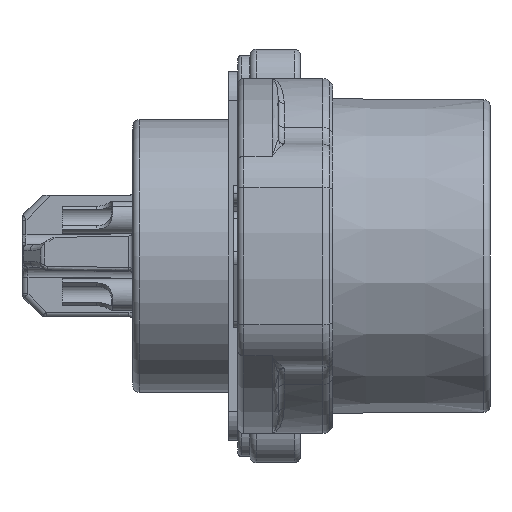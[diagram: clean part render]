
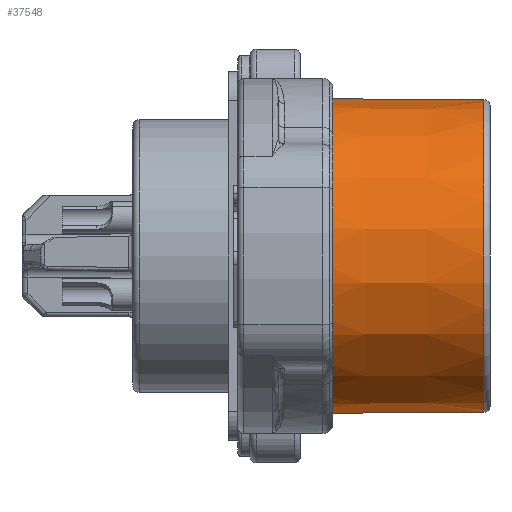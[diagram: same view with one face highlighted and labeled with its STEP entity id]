
A CAD part, front view. The second image highlights one B-rep face of the part: STEP entity #37548.
In plain terms, the highlighted conical face has half-angle 0.3 degrees and reference radius 7.75 mm.
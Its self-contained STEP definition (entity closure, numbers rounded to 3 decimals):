
#134 = VECTOR ( 'NONE', #43186, 1000. ) ;
#652 = AXIS2_PLACEMENT_3D ( 'NONE', #3562, #9943, #14052 ) ;
#1794 = CARTESIAN_POINT ( 'NONE',  ( 0., 0., 7.75 ) ) ;
#3562 = CARTESIAN_POINT ( 'NONE',  ( -0.298, 0., 0. ) ) ;
#4915 = CARTESIAN_POINT ( 'NONE',  ( -9.102, 0., 0. ) ) ;
#5173 = EDGE_CURVE ( 'NONE', #29285, #34971, #31879, .T. ) ;
#7256 = CARTESIAN_POINT ( 'NONE',  ( -9.102, 0., -7.798 ) ) ;
#9162 = CARTESIAN_POINT ( 'NONE',  ( 0., 0., 0. ) ) ;
#9704 = CARTESIAN_POINT ( 'NONE',  ( 0., 0., -7.75 ) ) ;
#9943 = DIRECTION ( 'NONE',  ( -1., 0., 0. ) ) ;
#11059 = VECTOR ( 'NONE', #16532, 1000. ) ;
#12806 = EDGE_CURVE ( 'NONE', #26721, #29285, #18771, .T. ) ;
#13366 = LINE ( 'NONE', #9704, #11059 ) ;
#14052 = DIRECTION ( 'NONE',  ( 0., 0., -1. ) ) ;
#14825 = AXIS2_PLACEMENT_3D ( 'NONE', #4915, #43975, #27168 ) ;
#16076 = VERTEX_POINT ( 'NONE', #7256 ) ;
#16532 = DIRECTION ( 'NONE',  ( -1., 0., -0.005 ) ) ;
#17782 = EDGE_CURVE ( 'NONE', #26721, #16076, #13366, .T. ) ;
#18771 = CIRCLE ( 'NONE', #652, 7.752 ) ;
#22010 = ORIENTED_EDGE ( 'NONE', *, *, #31974, .T. ) ;
#23515 = FACE_OUTER_BOUND ( 'NONE', #39202, .T. ) ;
#25306 = CONICAL_SURFACE ( 'NONE', #36896, 7.75, 0.005 ) ;
#26475 = DIRECTION ( 'NONE',  ( -1., 0., 0. ) ) ;
#26721 = VERTEX_POINT ( 'NONE', #32986 ) ;
#27168 = DIRECTION ( 'NONE',  ( 0., 0., 1. ) ) ;
#29285 = VERTEX_POINT ( 'NONE', #34326 ) ;
#29708 = CARTESIAN_POINT ( 'NONE',  ( -9.102, 0., 7.798 ) ) ;
#30805 = CIRCLE ( 'NONE', #14825, 7.798 ) ;
#31879 = LINE ( 'NONE', #1794, #134 ) ;
#31974 = EDGE_CURVE ( 'NONE', #34971, #16076, #30805, .T. ) ;
#32986 = CARTESIAN_POINT ( 'NONE',  ( -0.298, 0., -7.752 ) ) ;
#34326 = CARTESIAN_POINT ( 'NONE',  ( -0.298, 0., 7.752 ) ) ;
#34971 = VERTEX_POINT ( 'NONE', #29708 ) ;
#35049 = ORIENTED_EDGE ( 'NONE', *, *, #5173, .T. ) ;
#36896 = AXIS2_PLACEMENT_3D ( 'NONE', #9162, #26475, #36905 ) ;
#36905 = DIRECTION ( 'NONE',  ( 0., 0., 1. ) ) ;
#37548 = ADVANCED_FACE ( 'NONE', ( #23515 ), #25306, .T. ) ;
#39202 = EDGE_LOOP ( 'NONE', ( #43331, #41777, #35049, #22010 ) ) ;
#41777 = ORIENTED_EDGE ( 'NONE', *, *, #12806, .T. ) ;
#43186 = DIRECTION ( 'NONE',  ( -1., 0., 0.005 ) ) ;
#43331 = ORIENTED_EDGE ( 'NONE', *, *, #17782, .F. ) ;
#43975 = DIRECTION ( 'NONE',  ( 1., 0., 0. ) ) ;
